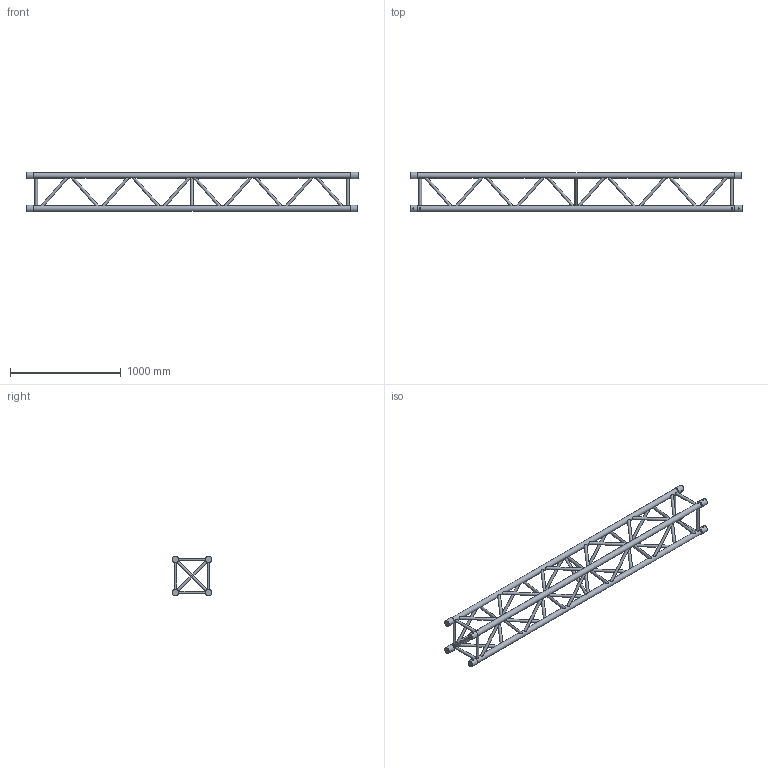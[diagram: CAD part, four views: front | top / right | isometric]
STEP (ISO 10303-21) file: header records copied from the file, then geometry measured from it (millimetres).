
FILE_DESCRIPTION(/* description */ (''),/* implementation_level */ '2;1');
FILE_NAME(/* name */ 'C:\Users\corina\Desktop\111110070.stp',/* time_stamp */ '2016-09-09T13:50:31+03:00',/* author */ ('corina.carstoveanu'),/* organization */ (''),/* preprocessor_version */ 'ST-DEVELOPER v15.6',/* originating_system */ 'Autodesk Inventor 2015',/* authorisation */ '');
FILE_SCHEMA (('AUTOMOTIVE_DESIGN { 1 0 10303 214 3 1 1 }'));
Length unit declared in the file: millimetre
Products named in the file (1): 260000757
Bounding box: 3000 x 357.8 x 357.8 mm (x, y, z)
Volume: 31596134.7 mm3; surface area: 3222894.1 mm2
Topology: 2 solids, 7 shells, 216 faces, 591 edges, 383 vertices
Faces by surface type: cylinder 132, plane 76, cone 8
Full cylindrical faces by diameter (mm): 10 x8, 25 x51, 50 x4, 58.8 x8
Entity records: 9768 total; most frequent: CARTESIAN_POINT 5535, ORIENTED_EDGE 732, DIRECTION 713, EDGE_LOOP 408, EDGE_CURVE 339, AXIS2_PLACEMENT_3D 336, VERTEX_POINT 258, FACE_BOUND 221
